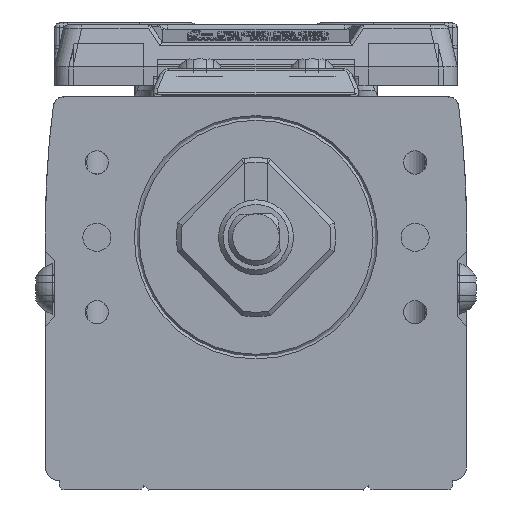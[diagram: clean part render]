
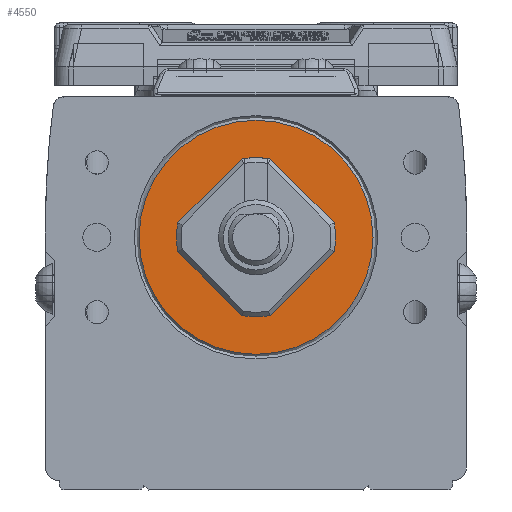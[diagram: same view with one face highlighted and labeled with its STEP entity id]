
A CAD part, left-side view. The second image highlights one B-rep face of the part: STEP entity #4550.
In plain terms, the highlighted planar face has unit normal (-1, 0, 0) as drawn and (0, 0, 1) by its records, which use the part's own axes.
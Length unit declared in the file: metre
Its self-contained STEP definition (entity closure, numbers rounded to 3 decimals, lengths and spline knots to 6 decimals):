
#4550=ADVANCED_FACE('',(#9117,#9118),#9119,.T.);
#9117=FACE_OUTER_BOUND('',#16281,.T.);
#9118=FACE_BOUND('',#16282,.T.);
#9119=PLANE('',#16283);
#16281=EDGE_LOOP('',(#28130));
#16282=EDGE_LOOP('',(#28131));
#16283=AXIS2_PLACEMENT_3D('',#28132,#28133,#28134);
#28130=ORIENTED_EDGE('',*,*,#33599,.T.);
#28131=ORIENTED_EDGE('',*,*,#33600,.F.);
#28132=CARTESIAN_POINT('',(0.000046,-0.005386,0.018));
#28133=DIRECTION('',(0.0,0.0,1.0));
#28134=DIRECTION('',(1.0,0.0,0.0));
#33599=EDGE_CURVE('',#40514,#40514,#40515,.T.);
#33600=EDGE_CURVE('',#40516,#40516,#40517,.T.);
#40514=VERTEX_POINT('',#50970);
#40515=CIRCLE('',#50971,0.0125);
#40516=VERTEX_POINT('',#50972);
#40517=CIRCLE('',#50973,0.004);
#50970=CARTESIAN_POINT('',(-0.0125,0.,0.018));
#50971=AXIS2_PLACEMENT_3D('',#56264,#56265,#56266);
#50972=CARTESIAN_POINT('',(0.004,0.0,0.018));
#50973=AXIS2_PLACEMENT_3D('',#56267,#56268,#56269);
#56264=CARTESIAN_POINT('',(0.0,0.,0.018));
#56265=DIRECTION('',(0.0,0.0,1.0));
#56266=DIRECTION('',(1.0,0.0,0.0));
#56267=CARTESIAN_POINT('',(0.0,0.0,0.018));
#56268=DIRECTION('',(0.0,0.0,1.0));
#56269=DIRECTION('',(-1.0,0.0,0.0));
